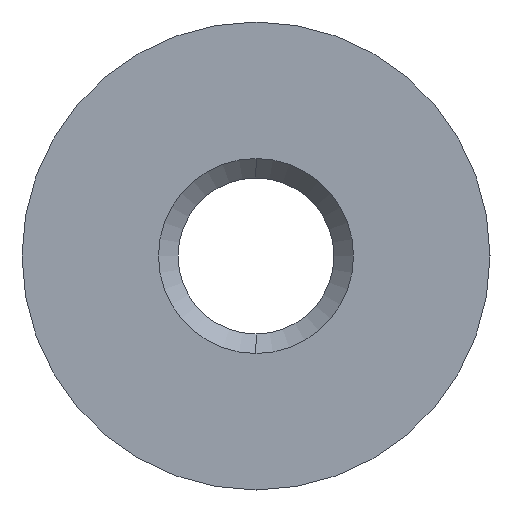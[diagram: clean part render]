
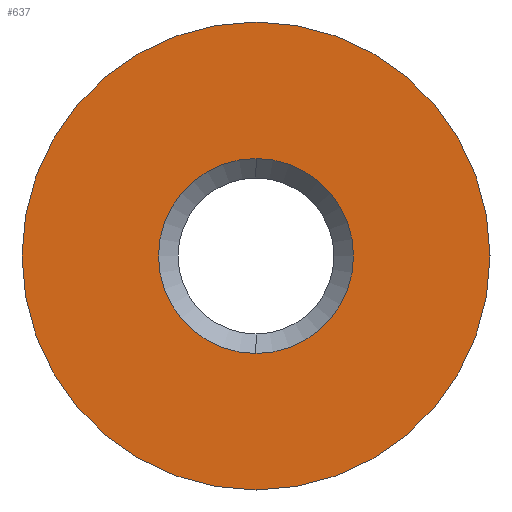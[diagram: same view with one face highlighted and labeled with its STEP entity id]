
A CAD part, left-side view. The second image highlights one B-rep face of the part: STEP entity #637.
In plain terms, the highlighted planar face has unit normal (-1, 0, 0).
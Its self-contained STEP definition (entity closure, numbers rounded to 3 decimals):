
#37 = CARTESIAN_POINT ( 'NONE',  ( -4.45, 0., 0. ) ) ;
#47 = FACE_OUTER_BOUND ( 'NONE', #381, .T. ) ;
#62 = ORIENTED_EDGE ( 'NONE', *, *, #466, .F. ) ;
#69 = CARTESIAN_POINT ( 'NONE',  ( -4.45, 0., 0. ) ) ;
#71 = CIRCLE ( 'NONE', #345, 2.4 ) ;
#91 = EDGE_CURVE ( 'NONE', #675, #788, #439, .T. ) ;
#106 = ORIENTED_EDGE ( 'NONE', *, *, #91, .T. ) ;
#110 = FACE_BOUND ( 'NONE', #688, .T. ) ;
#122 = CIRCLE ( 'NONE', #471, 1. ) ;
#126 = ORIENTED_EDGE ( 'NONE', *, *, #383, .T. ) ;
#127 = AXIS2_PLACEMENT_3D ( 'NONE', #336, #718, #214 ) ;
#142 = VERTEX_POINT ( 'NONE', #537 ) ;
#157 = CIRCLE ( 'NONE', #263, 2.4 ) ;
#185 = VERTEX_POINT ( 'NONE', #685 ) ;
#186 = DIRECTION ( 'NONE',  ( 0., 0., 1. ) ) ;
#201 = CARTESIAN_POINT ( 'NONE',  ( -4.45, 0., -1. ) ) ;
#214 = DIRECTION ( 'NONE',  ( 0., 0., 1. ) ) ;
#263 = AXIS2_PLACEMENT_3D ( 'NONE', #587, #735, #465 ) ;
#335 = DIRECTION ( 'NONE',  ( 0., 0., -1. ) ) ;
#336 = CARTESIAN_POINT ( 'NONE',  ( -4.45, 0., 0. ) ) ;
#345 = AXIS2_PLACEMENT_3D ( 'NONE', #69, #780, #335 ) ;
#381 = EDGE_LOOP ( 'NONE', ( #695, #62 ) ) ;
#383 = EDGE_CURVE ( 'NONE', #788, #675, #122, .T. ) ;
#424 = AXIS2_PLACEMENT_3D ( 'NONE', #620, #558, #186 ) ;
#439 = CIRCLE ( 'NONE', #127, 1. ) ;
#448 = CARTESIAN_POINT ( 'NONE',  ( -4.45, 0., 1. ) ) ;
#465 = DIRECTION ( 'NONE',  ( 0., 0., -1. ) ) ;
#466 = EDGE_CURVE ( 'NONE', #142, #185, #157, .T. ) ;
#471 = AXIS2_PLACEMENT_3D ( 'NONE', #37, #795, #790 ) ;
#494 = PLANE ( 'NONE',  #424 ) ;
#537 = CARTESIAN_POINT ( 'NONE',  ( -4.45, 0., 2.4 ) ) ;
#558 = DIRECTION ( 'NONE',  ( -1., 0., 0. ) ) ;
#587 = CARTESIAN_POINT ( 'NONE',  ( -4.45, 0., 0. ) ) ;
#620 = CARTESIAN_POINT ( 'NONE',  ( -4.45, 2.4, 0. ) ) ;
#637 = ADVANCED_FACE ( 'NONE', ( #110, #47 ), #494, .T. ) ;
#640 = EDGE_CURVE ( 'NONE', #185, #142, #71, .T. ) ;
#675 = VERTEX_POINT ( 'NONE', #448 ) ;
#685 = CARTESIAN_POINT ( 'NONE',  ( -4.45, 0., -2.4 ) ) ;
#688 = EDGE_LOOP ( 'NONE', ( #106, #126 ) ) ;
#695 = ORIENTED_EDGE ( 'NONE', *, *, #640, .F. ) ;
#718 = DIRECTION ( 'NONE',  ( 1., 0., 0. ) ) ;
#735 = DIRECTION ( 'NONE',  ( 1., 0., 0. ) ) ;
#780 = DIRECTION ( 'NONE',  ( 1., 0., 0. ) ) ;
#788 = VERTEX_POINT ( 'NONE', #201 ) ;
#790 = DIRECTION ( 'NONE',  ( 0., 0., 1. ) ) ;
#795 = DIRECTION ( 'NONE',  ( 1., 0., 0. ) ) ;
